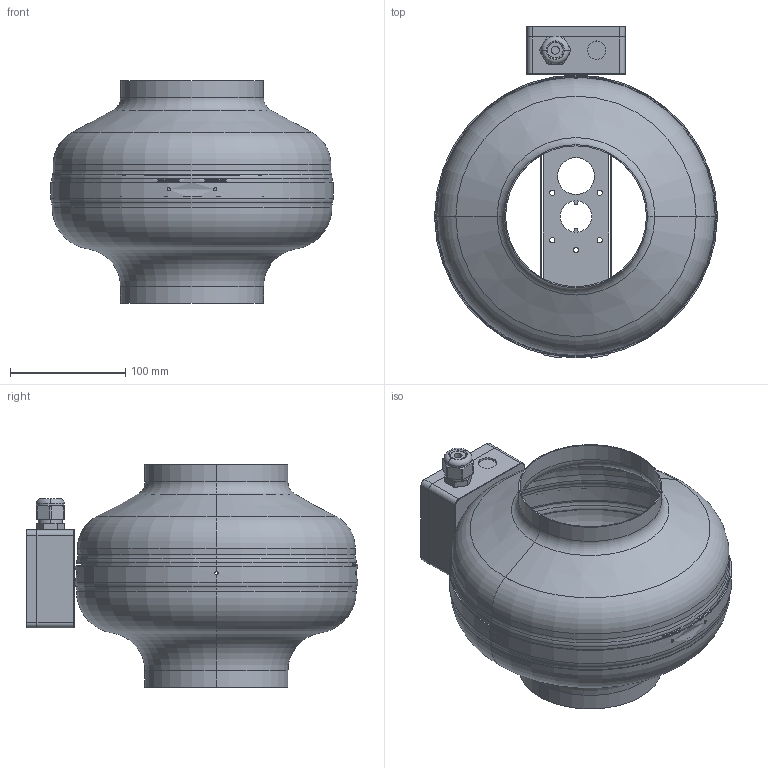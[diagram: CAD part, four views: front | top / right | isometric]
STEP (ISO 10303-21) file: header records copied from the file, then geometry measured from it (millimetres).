
FILE_DESCRIPTION (( 'STEP AP203' ), '1' );
FILE_NAME ('154570_00_RS125ECK01_step.step', '2022-10-06T13:28:31', ( '' ), ( '' ), 'SwSTEP 2.0', 'SolidWorks 2021', '' );
FILE_SCHEMA (( 'CONFIG_CONTROL_DESIGN' ));
Length unit declared in the file: millimetre
Products named in the file (1): 154570_00_RS125ECK01_step
Bounding box: 245 x 287.71 x 193 mm (x, y, z)
Surface area: 371548.1 mm2 (no closed solid volume)
Topology: 0 solids, 11 shells, 204 faces, 655 edges, 451 vertices
Faces by surface type: cylinder 87, plane 60, torus 44, cone 13
Entity records: 8671 total; most frequent: CARTESIAN_POINT 2815, DIRECTION 1246, ORIENTED_EDGE 1076, EDGE_CURVE 655, AXIS2_PLACEMENT_3D 480, VERTEX_POINT 451, LINE 286, VECTOR 286
